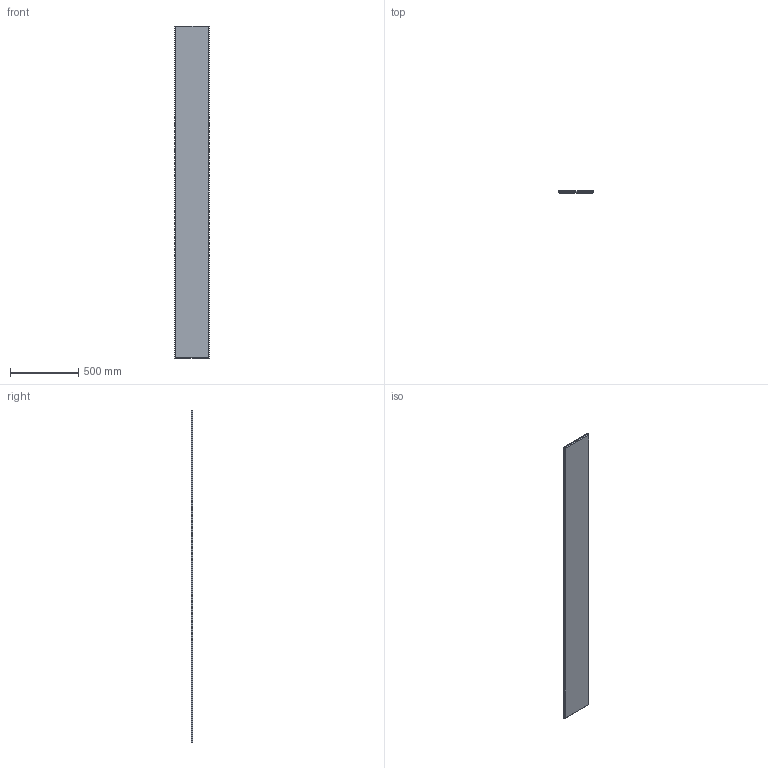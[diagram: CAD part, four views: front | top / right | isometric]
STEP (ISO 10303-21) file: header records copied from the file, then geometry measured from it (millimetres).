
FILE_DESCRIPTION(/* description */ (''),/* implementation_level */ '2;1');
FILE_NAME(/* name */ 'PET PLANQ_Beveled_10x96',/* time_stamp */ '2024-10-31T13:55:30-05:00',/* author */ (''),/* organization */ (''),/* preprocessor_version */ 'ST-DEVELOPER v19.2',/* originating_system */ 'Rhino 8.4',/* authorisation */ '');
FILE_SCHEMA (('CONFIG_CONTROL_DESIGN'));
Length unit declared in the file: inch
Products named in the file (1): Document
Bounding box: 254 x 12.7 x 2438.4 mm (x, y, z)
Volume: 7757567.8 mm3; surface area: 1286997.3 mm2
Topology: 1 solids, 1 shells, 10 faces, 20 edges, 12 vertices
Faces by surface type: plane 10
Entity records: 310 total; most frequent: CARTESIAN_POINT 64, ORIENTED_EDGE 40, EDGE_CURVE 20, B_SPLINE_CURVE_WITH_KNOTS 20, DIRECTION 14, VERTEX_POINT 12, AXIS2_PLACEMENT_3D 12, ADVANCED_FACE 10
